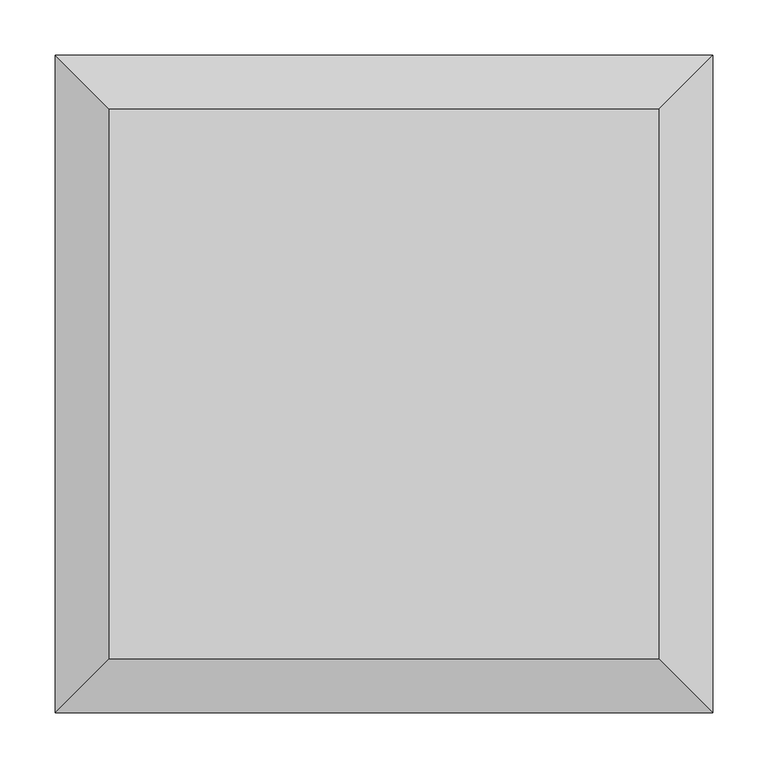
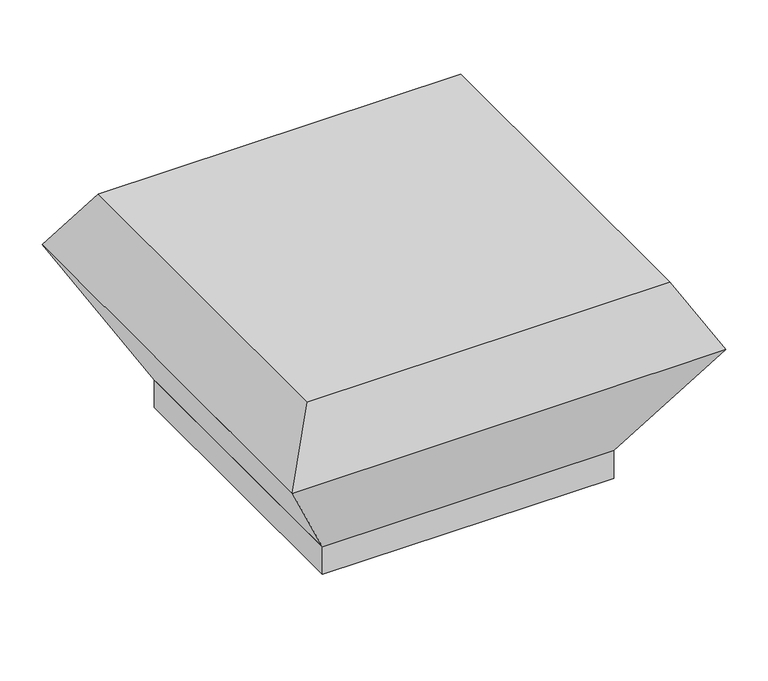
"""IFC4 building model written with IfcOpenShell, lengths in millimetres: proxy geometry."""

from ifc_helpers import new_model, si_unit, origin, origin_with_axes, place, context, project, spatial, polyline, outline, extrude, faceted_brep, source, transform, mapped, element, save


def mechanical_equipment_f1deef69(model_context):
    return source(origin(), model_context, "Body", "SolidModel", [
        faceted_brep([(-298.0, -298.0, 212.0), (-298.0, 298.0, 212.0), (298.0, 298.0, 212.0), (298.0, -298.0, 212.0), (-249.0, -249.0, 298.0), (249.0, -249.0, 298.0), (249.0, 249.0, 298.0), (-249.0, 249.0, 298.0)], [[[0, 1, 2, 3]], [[4, 5, 6, 7]], [[5, 4, 0, 3]], [[6, 5, 3, 2]], [[7, 6, 2, 1]], [[4, 7, 1, 0]]]),
        faceted_brep([(298.0, 298.0, 212.0), (-298.0, 298.0, 212.0), (-298.0, -298.0, 212.0), (298.0, -298.0, 212.0), (200.0, 200.0, 40.0), (200.0, -200.0, 40.0), (-200.0, -200.0, 40.0), (-200.0, 200.0, 40.0)], [[[0, 1, 2, 3]], [[4, 5, 6, 7]], [[4, 7, 1, 0]], [[7, 6, 2, 1]], [[6, 5, 3, 2]], [[5, 4, 0, 3]]]),
        extrude(outline(polyline([(-200.0, -200.0), (-200.0, 200.0), (200.0, 200.0), (200.0, -200.0), (-200.0, -200.0)])), origin_with_axes(), (0.0, 0.0, 1.0), 40.0),
    ])


if __name__ == "__main__":
    model = new_model("IFC4")
    model_context = context("Model", 3, world=origin())
    ifc_project = project(units=[si_unit("LENGTHUNIT", "METRE", prefix="MILLI")], contexts=[model_context])
    site = spatial("IfcSite", under=ifc_project)
    building = spatial("IfcBuilding", under=site)
    placement = place(None, origin())
    mechanical_equipment_shape = mechanical_equipment_f1deef69(model_context)
    element("IfcBuildingElementProxy", 1, Name="Mechanical Equipment", at=placement, inside=building, context=model_context, shape_type="MappedRepresentation", body=[
        mapped(mechanical_equipment_shape, transform((0.0, 0.0, 0.0), x_axis=(1.0, 0.0, 0.0), y_axis=(0.0, 1.0, 0.0), z_axis=(0.0, 0.0, 1.0))),
    ])
    save(model, "model.ifc")
